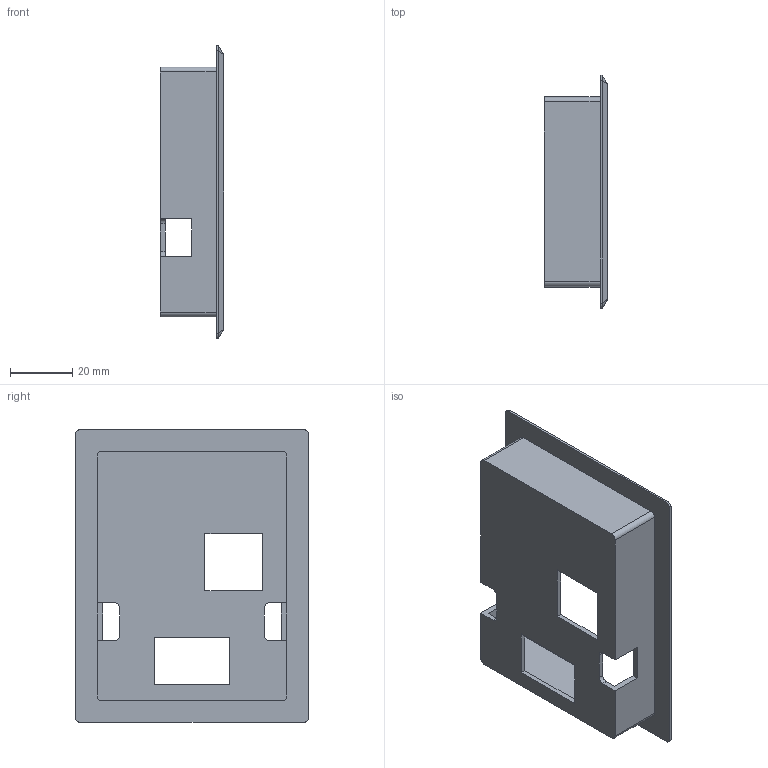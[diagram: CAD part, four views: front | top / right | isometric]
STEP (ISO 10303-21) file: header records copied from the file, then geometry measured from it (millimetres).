
FILE_DESCRIPTION(('STEP AP203'), '1');
FILE_NAME('Ðàìêà ìîíòàæíàÿ âåð.2 _ VCI-MF-V2', '', ('UNSPECIFIED'), ('UNSPECIFIED'), 'C3D Converter', 'C3D Toolkit', '');
FILE_SCHEMA(('CONFIG_CONTROL_DESIGN'));
Length unit declared in the file: millimetre
Products named in the file (1): VCI-MF-V2
Bounding box: 20.3 x 74.7 x 94 mm (x, y, z)
Volume: 18631.2 mm3; surface area: 22718.7 mm2
Topology: 1 solids, 1 shells, 57 faces, 160 edges, 100 vertices
Faces by surface type: plane 41, cylinder 12, bspline 4
Entity records: 2610 total; most frequent: CARTESIAN_POINT 646, ORIENTED_EDGE 312, DIRECTION 288, EDGE_CURVE 156, LINE 132, VECTOR 132, VERTEX_POINT 100, AXIS2_PLACEMENT_3D 78
